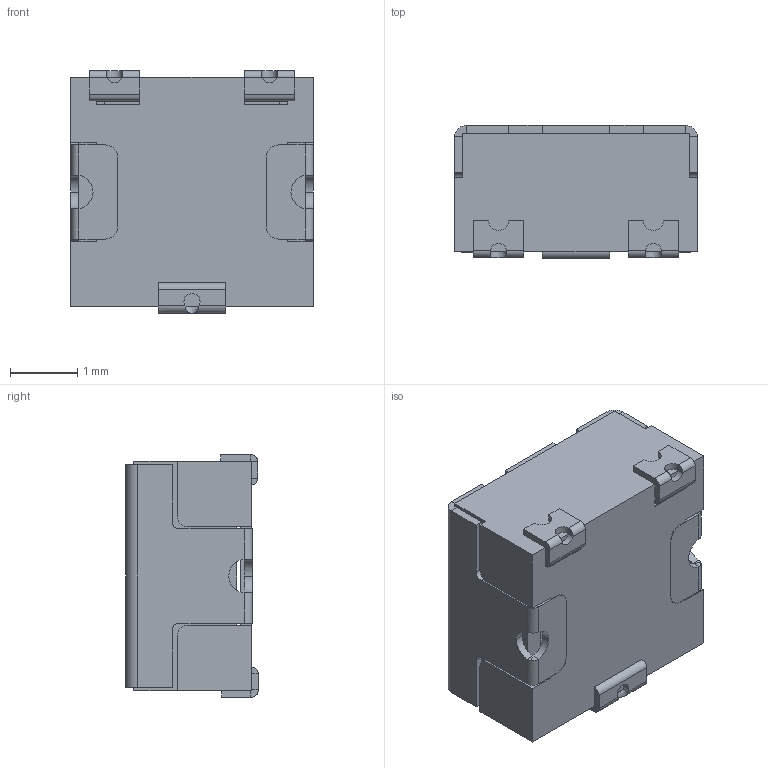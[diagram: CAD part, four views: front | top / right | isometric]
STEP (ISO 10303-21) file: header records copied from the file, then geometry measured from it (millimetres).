
FILE_DESCRIPTION((''),'2;1');
FILE_NAME('PVG3A','2016-12-13T',('philips'),('Bourns, Inc.'),'CREO PARAMETRIC BY PTC INC, 2016130','CREO PARAMETRIC BY PTC INC, 2016130','');
FILE_SCHEMA(('CONFIG_CONTROL_DESIGN'));
Length unit declared in the file: inch
Products named in the file (1): PVG3A
Bounding box: 3.6 x 1.97 x 3.6 mm (x, y, z)
Volume: 13.3 mm3; surface area: 148.7 mm2
Topology: 1 solids, 5 shells, 399 faces, 1000 edges, 604 vertices
Faces by surface type: plane 268, cylinder 92, bspline 19, torus 14, cone 6
Entity records: 12967 total; most frequent: CARTESIAN_POINT 3421, ORIENTED_EDGE 1992, DIRECTION 1938, EDGE_CURVE 996, VECTOR 732, LINE 732, VERTEX_POINT 604, AXIS2_PLACEMENT_3D 603
